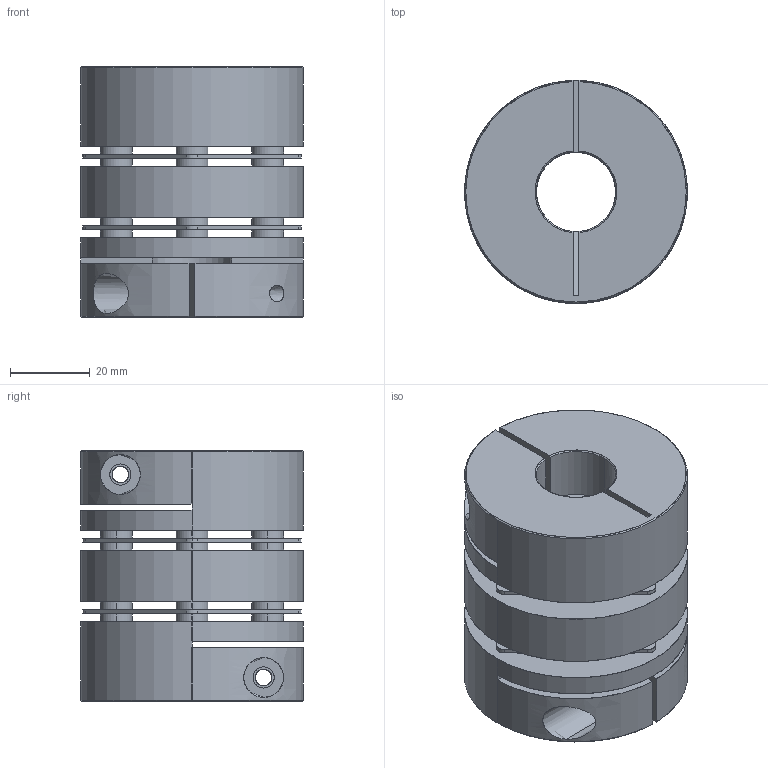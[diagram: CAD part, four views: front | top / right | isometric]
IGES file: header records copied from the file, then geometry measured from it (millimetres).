
Start section: SolidWorks IGES file using analytic representation for surfaces
Bounding box: 56 x 56 x 63 mm (x, y, z)
Surface area: 36862.6 mm2 (no closed solid volume)
Topology: 0 solids, 0 shells, 134 faces, 3076 edges, 3076 vertices
Faces by surface type: revolution 90, bspline 44
